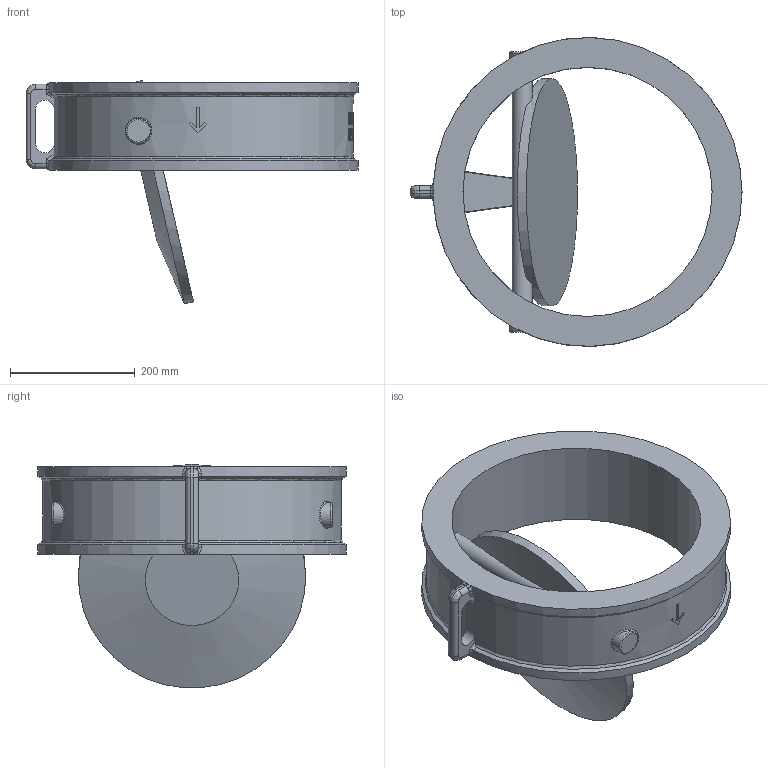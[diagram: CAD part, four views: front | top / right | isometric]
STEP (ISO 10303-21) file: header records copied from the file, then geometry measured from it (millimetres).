
FILE_DESCRIPTION( ( 'Unknown' ), '1' );
FILE_NAME( 'C:/Documents and Settings/Klaus/My Documents/Rootsi BPS 3D, Klaus/BPS 6530 tilting disc check valve/STEP/BPS6530400 tilting disc check valve DN400.stp', 'Unknown', ( 'Unknown' ), ( 'Unknown' ), 'PSStep 10.1', 'Unknown', ' ' );
FILE_SCHEMA( ( 'AUTOMOTIVE_DESIGN { 1 0 10303 214 1 1 1 1 }' ) );
Length unit declared in the file: millimetre
Products named in the file (1): 1
Bounding box: 533 x 495.9 x 358.39 mm (x, y, z)
Volume: 11260717.3 mm3; surface area: 798373.5 mm2
Topology: 1 solids, 1 shells, 260 faces, 641 edges, 415 vertices
Faces by surface type: bspline 100, plane 95, cylinder 55, torus 6, cone 4
Full cylindrical faces by diameter (mm): 32 x1, 365 x1, 400 x1
Entity records: 28923 total; most frequent: CARTESIAN_POINT 21990, ORIENTED_EDGE 1244, EDGE_CURVE 622, DIRECTION 524, B_SPLINE_CURVE_WITH_KNOTS 497, VERTEX_POINT 411, EDGE_LOOP 315, FACE_OUTER_BOUND 273
